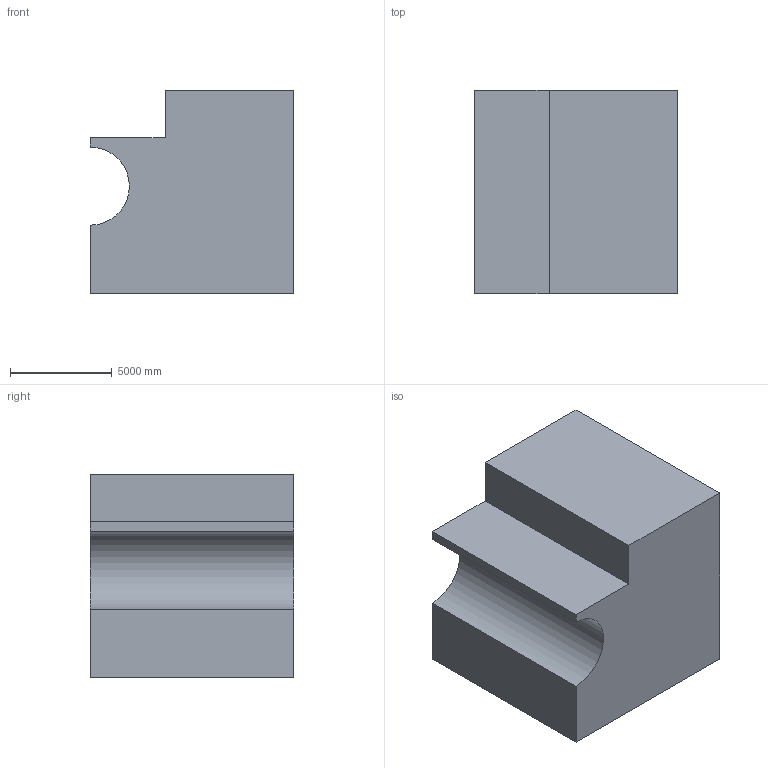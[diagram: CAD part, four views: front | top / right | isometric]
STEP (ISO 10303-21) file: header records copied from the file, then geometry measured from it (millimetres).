
FILE_DESCRIPTION (( 'STEP AP203' ), '1' );
FILE_NAME ('209.STEP', '2022-07-28T13:54:42', ( 'user' ), ( '' ), 'SwSTEP 2.0', 'SolidWorks 2021', '' );
FILE_SCHEMA (( 'CONFIG_CONTROL_DESIGN' ));
Length unit declared in the file: centimetre
Products named in the file (1): 209
Bounding box: 10000 x 10000 x 10000 mm (x, y, z)
Volume: 817081406947.3 mm3; surface area: 626840750.4 mm2
Topology: 1 solids, 1 shells, 14 faces, 36 edges, 24 vertices
Faces by surface type: plane 12, cylinder 2
Entity records: 501 total; most frequent: CARTESIAN_POINT 75, ORIENTED_EDGE 72, DIRECTION 70, EDGE_CURVE 36, LINE 32, VECTOR 32, VERTEX_POINT 24, AXIS2_PLACEMENT_3D 19
